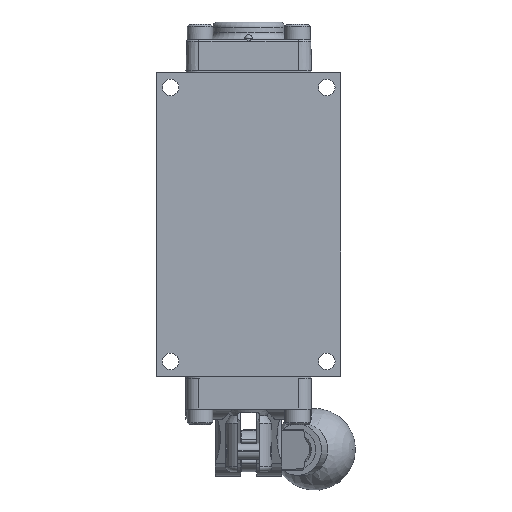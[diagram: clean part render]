
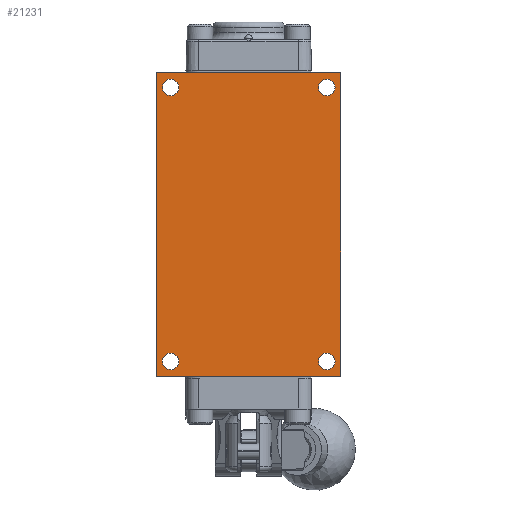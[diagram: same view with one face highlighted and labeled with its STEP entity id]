
A CAD part, front view. The second image highlights one B-rep face of the part: STEP entity #21231.
In plain terms, the highlighted planar face has unit normal (0, -1, 0).
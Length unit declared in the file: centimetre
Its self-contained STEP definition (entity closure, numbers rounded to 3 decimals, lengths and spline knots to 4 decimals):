
#1236=FACE_BOUND('',#7531,.T.);
#1237=FACE_BOUND('',#7532,.T.);
#1238=FACE_BOUND('',#7533,.T.);
#1239=FACE_BOUND('',#7534,.T.);
#2282=LINE('',#37074,#3684);
#2283=LINE('',#37076,#3685);
#2284=LINE('',#37078,#3686);
#2285=LINE('',#37079,#3687);
#3684=VECTOR('',#28022,9.4209);
#3685=VECTOR('',#28023,5.715);
#3686=VECTOR('',#28024,9.4209);
#3687=VECTOR('',#28025,5.715);
#4550=PLANE('',#23302);
#5988=FACE_OUTER_BOUND('',#7530,.T.);
#7530=EDGE_LOOP('',(#12076,#12077,#12078,#12079));
#7531=EDGE_LOOP('',(#12080));
#7532=EDGE_LOOP('',(#12081));
#7533=EDGE_LOOP('',(#12082));
#7534=EDGE_LOOP('',(#12083));
#12076=ORIENTED_EDGE('',*,*,#15658,.F.);
#12077=ORIENTED_EDGE('',*,*,#15659,.F.);
#12078=ORIENTED_EDGE('',*,*,#15660,.F.);
#12079=ORIENTED_EDGE('',*,*,#15661,.F.);
#12080=ORIENTED_EDGE('',*,*,#15662,.T.);
#12081=ORIENTED_EDGE('',*,*,#15663,.T.);
#12082=ORIENTED_EDGE('',*,*,#15664,.T.);
#12083=ORIENTED_EDGE('',*,*,#15665,.T.);
#15658=EDGE_CURVE('',#17788,#17789,#2282,.T.);
#15659=EDGE_CURVE('',#17790,#17788,#2283,.T.);
#15660=EDGE_CURVE('',#17791,#17790,#2284,.T.);
#15661=EDGE_CURVE('',#17789,#17791,#2285,.T.);
#15662=EDGE_CURVE('',#17792,#17792,#19087,.T.);
#15663=EDGE_CURVE('',#17793,#17793,#19088,.T.);
#15664=EDGE_CURVE('',#17794,#17794,#19089,.T.);
#15665=EDGE_CURVE('',#17795,#17795,#19090,.T.);
#17788=VERTEX_POINT('',#37072);
#17789=VERTEX_POINT('',#37073);
#17790=VERTEX_POINT('',#37075);
#17791=VERTEX_POINT('',#37077);
#17792=VERTEX_POINT('',#37080);
#17793=VERTEX_POINT('',#37082);
#17794=VERTEX_POINT('',#37084);
#17795=VERTEX_POINT('',#37086);
#19087=CIRCLE('',#23303,0.2578);
#19088=CIRCLE('',#23304,0.2578);
#19089=CIRCLE('',#23305,0.2578);
#19090=CIRCLE('',#23306,0.2578);
#21231=ADVANCED_FACE('',(#5988,#1236,#1237,#1238,#1239),#4550,.F.);
#23302=AXIS2_PLACEMENT_3D('',#37071,#28020,#28021);
#23303=AXIS2_PLACEMENT_3D('',#37081,#28026,#28027);
#23304=AXIS2_PLACEMENT_3D('',#37083,#28028,#28029);
#23305=AXIS2_PLACEMENT_3D('',#37085,#28030,#28031);
#23306=AXIS2_PLACEMENT_3D('',#37087,#28032,#28033);
#28020=DIRECTION('center_axis',(0.,1.,0.));
#28021=DIRECTION('ref_axis',(0.,0.,1.));
#28022=DIRECTION('',(0.,0.,1.));
#28023=DIRECTION('',(-1.,0.,0.));
#28024=DIRECTION('',(0.,0.,-1.));
#28025=DIRECTION('',(1.,0.,0.));
#28026=DIRECTION('center_axis',(0.,1.,0.));
#28027=DIRECTION('ref_axis',(-1.,0.,0.));
#28028=DIRECTION('center_axis',(0.,1.,0.));
#28029=DIRECTION('ref_axis',(-1.,0.,0.));
#28030=DIRECTION('center_axis',(0.,1.,0.));
#28031=DIRECTION('ref_axis',(-1.,0.,0.));
#28032=DIRECTION('center_axis',(0.,1.,0.));
#28033=DIRECTION('ref_axis',(-1.,0.,0.));
#37071=CARTESIAN_POINT('Origin',(0.,-1.6358,0.));
#37072=CARTESIAN_POINT('',(-2.8575,-1.6358,-4.7104));
#37073=CARTESIAN_POINT('',(-2.8575,-1.6358,4.7104));
#37074=CARTESIAN_POINT('',(-2.8575,-1.6358,-4.7104));
#37075=CARTESIAN_POINT('',(2.8575,-1.6358,-4.7104));
#37076=CARTESIAN_POINT('',(2.8575,-1.6358,-4.7104));
#37077=CARTESIAN_POINT('',(2.8575,-1.6358,4.7104));
#37078=CARTESIAN_POINT('',(2.8575,-1.6358,4.7104));
#37079=CARTESIAN_POINT('',(-2.8575,-1.6358,4.7104));
#37080=CARTESIAN_POINT('',(-2.1628,-1.6358,-4.2469));
#37081=CARTESIAN_POINT('Origin',(-2.4206,-1.6358,-4.2469));
#37082=CARTESIAN_POINT('',(-2.1628,-1.6358,4.2469));
#37083=CARTESIAN_POINT('Origin',(-2.4206,-1.6358,4.2469));
#37084=CARTESIAN_POINT('',(2.6784,-1.6358,-4.2469));
#37085=CARTESIAN_POINT('Origin',(2.4206,-1.6358,-4.2469));
#37086=CARTESIAN_POINT('',(2.6784,-1.6358,4.2469));
#37087=CARTESIAN_POINT('Origin',(2.4206,-1.6358,4.2469));
